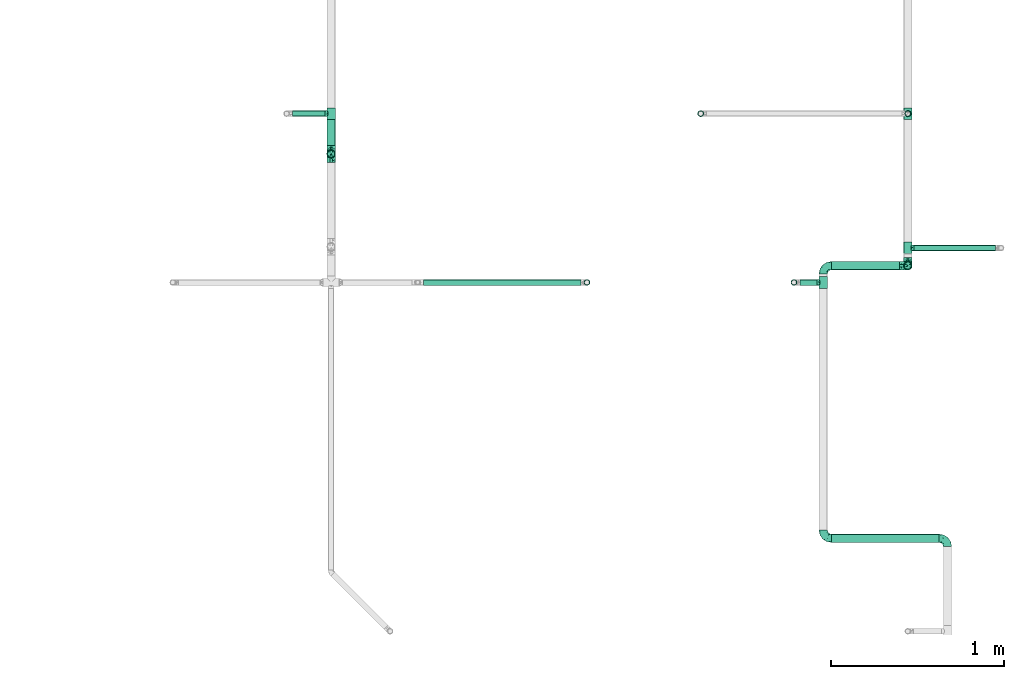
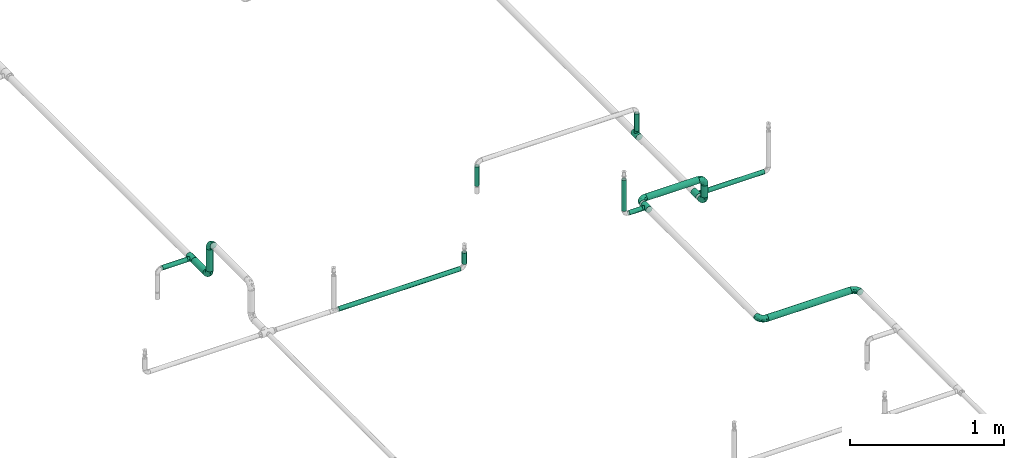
# One storey, part 5 of 157: 13 flow segments, 11 flow fittings.
"""IFC2X3 building model written with IfcOpenShell, lengths in millimetres."""

from ifc_helpers import new_model, entity, si_unit, converted_unit, derived_unit, direction, frame, origin_with_axes, origin_2d_with_axis, place, context, subcontext, project, spatial, hollow_circle, extrude, open_shell, surface_model, source, transform, mapped, type_object, element, save


model = new_model("IFC2X3")

# Units and contexts
model_context = context("Model", 3, precision=0.01, world=frame((0.0, 4.29681676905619e-09, 0.0)), true_north=direction((4.01073788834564e-13, 1.0)))
plan_context = context("Plan", 3, precision=0.01, world=frame((0.0, 4.29681676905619e-09, 0.0)), true_north=direction((4.01073788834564e-13, 1.0)))
body_context = subcontext(model_context, "Body", "Model", "MODEL_VIEW")
ifc_project = project(units=[converted_unit("PLANEANGLEUNIT", "DEGREE", entity("IfcPositiveLengthMeasure", 0.0174532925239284), si_unit("PLANEANGLEUNIT", "RADIAN"), dimensions=[0, 0, 0, 0, 0, 0, 0]), si_unit("AREAUNIT", "SQUARE_METRE"), si_unit("LENGTHUNIT", "METRE", prefix="MILLI"), si_unit("MASSUNIT", "GRAM", prefix="KILO"), si_unit("POWERUNIT", "WATT"), si_unit("PRESSUREUNIT", "PASCAL"), si_unit("FORCEUNIT", "NEWTON", prefix="KILO"), si_unit("ELECTRICCURRENTUNIT", "AMPERE"), si_unit("THERMODYNAMICTEMPERATUREUNIT", "DEGREE_CELSIUS"), si_unit("TIMEUNIT", "SECOND"), si_unit("VOLUMEUNIT", "CUBIC_METRE"), derived_unit("LINEARVELOCITYUNIT", [(si_unit("LENGTHUNIT", "METRE"), 1), (si_unit("TIMEUNIT", "SECOND"), -1)]), derived_unit("VOLUMETRICFLOWRATEUNIT", [(si_unit("VOLUMEUNIT", "CUBIC_METRE"), 1), (si_unit("TIMEUNIT", "SECOND"), -1)]), derived_unit("THERMALTRANSMITTANCEUNIT", [(si_unit("POWERUNIT", "WATT"), 1), (si_unit("THERMODYNAMICTEMPERATUREUNIT", "KELVIN"), -1), (si_unit("AREAUNIT", "SQUARE_METRE"), -1)])], contexts=[model_context, plan_context])

# Site, building, storey
site_placement = place(None, frame((0.0, -4.29681676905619e-09, 0.0), z_axis=(0.0, 0.0, 1.0), x_axis=(1.0, 0.0, 0.0)))
site = spatial("IfcSite", under=ifc_project, at=site_placement, CompositionType="ELEMENT")
building_placement = place(site_placement, frame((0.0, 4.29681676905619e-09, 0.0), z_axis=(0.0, 0.0, 1.0), x_axis=(1.0, 0.0, 0.0)))
building = spatial("IfcBuilding", under=site, at=building_placement, Name="mc-building", CompositionType="ELEMENT")
storey_placement = place(building_placement, frame((0.0, 0.0, 204000.0), z_axis=(0.0, 0.0, 1.0), x_axis=(1.0, 0.0, 0.0)))
storey = spatial("IfcBuildingStorey", under=building, at=storey_placement, Name="Nivå D", CompositionType="ELEMENT", Elevation=204000.0)

# Flow fittings
pipe_fitting_type_1 = type_object("IfcPipeFittingType", Name="magi_pipe_fe_elbow_short_001", PredefinedType="BEND")
shared_shape_1 = source(origin_with_axes(), body_context, "Body", "SurfaceModel", [
    surface_model("IfcShellBasedSurfaceModel", [(-48.4, 6.26342, -23.37541), (-48.4, 0.0, -24.2), (-48.4, 17.11198, -17.11198), (-48.4, 12.1, -20.95781), (-48.4, 23.37541, -6.26342), (-48.4, 20.95781, -12.1), (-48.4, -12.1, -20.95781), (-48.4, -17.11198, -17.11198), (-48.4, -20.95781, -12.1), (-48.4, -6.26342, -23.37541), (-48.4, -23.37541, -6.26342), (-48.4, -24.2, 0.0), (-48.4, -23.37541, 6.26342), (-48.4, 23.37541, 6.26342), (-48.4, 6.26342, 23.37541), (-48.4, 20.95781, 12.1), (-48.4, 17.11198, 17.11198), (-48.4, 12.1, 20.95781), (-48.4, -12.1, 20.95781), (-48.4, -20.95781, 12.1), (-48.4, -17.11198, 17.11198), (-48.4, -6.26342, 23.37541), (-48.4, 0.0, 24.2), (-48.4, 24.2, 0.0), (-17.11198, 48.4, -17.11198), (0.0, 48.4, -24.2), (-6.26342, 48.4, -23.37541), (-12.1, 48.4, -20.95781), (-20.95781, 48.4, -12.1), (-23.37541, 48.4, -6.26342), (12.1, 48.4, -20.95781), (20.95781, 48.4, -12.1), (17.11198, 48.4, -17.11198), (6.26342, 48.4, -23.37541), (23.37541, 48.4, -6.26342), (23.37541, 48.4, 6.26342), (24.2, 48.4, 0.0), (-23.37541, 48.4, 6.26342), (-6.26342, 48.4, 23.37541), (-17.11198, 48.4, 17.11198), (-20.95781, 48.4, 12.1), (-12.1, 48.4, 20.95781), (12.1, 48.4, 20.95781), (17.11198, 48.4, 17.11198), (20.95781, 48.4, 12.1), (0.0, 48.4, 24.2), (6.26342, 48.4, 23.37541), (-24.2, 48.4, 0.0), (-35.50368, -18.80076, 13.58523), (-31.77913, -13.9618, 18.03279), (-34.50859, -21.43683, 0.0), (-21.39243, -15.41147, 12.21413), (-32.16301, -21.12203, 7.54749), (21.12203, 32.16301, 7.54749), (17.07617, 18.95745, 6.20374), (18.67365, 20.61718, 0.0), (-23.65565, 38.62451, 10.51816), (-20.21592, 37.67665, 15.89859), (-35.56981, -9.15108, 21.77256), (-36.96985, -3.20584, 23.78612), (-33.88786, 3.70953, 24.15875), (-8.84062, -10.8048, 0.0), (-18.95745, -17.07617, 6.20374), (-20.61718, -18.67365, 0.0), (-18.69715, -5.87343, 20.10488), (-24.09336, -0.21717, 23.45593), (-2.08262, -4.09091, 10.90396), (-0.40561, 0.49936, 14.45569), (-8.22634, -5.79523, 14.90978), (-37.83027, 20.17367, 15.88169), (-8.41063, 23.79825, 24.15658), (-17.92529, 17.92529, 23.61199), (-14.40991, 10.5752, 24.07534), (-41.86919, 14.6551, 19.71874), (-9.03342, 41.7434, 22.66763), (-3.31671, 36.19978, 24.14056), (-38.63654, 23.65174, 10.51655), (-38.25939, 25.77657, 5.32075), (-30.0475, 30.0475, 9.04616), (-37.30448, 9.49113, 22.86036), (-6.31688, 16.20853, 23.76192), (-12.02449, 4.43954, 22.59792), (-2.47225, 13.07459, 22.23951), (-4.32281, 4.32281, 19.78555), (13.9618, 31.77913, 18.03279), (15.41147, 21.39243, 12.21413), (18.80076, 35.50367, 13.58523), (-25.72741, 16.42033, 22.38358), (-26.59277, 10.36599, 23.76692), (3.20584, 36.96985, 23.78612), (9.15107, 35.56981, 21.77256), (5.87343, 18.69715, 20.10488), (21.43683, 34.50859, 0.0), (-23.74657, 5.93004, 24.18967), (-22.40302, 25.55556, 19.88516), (-33.3245, 16.42738, 20.3789), (-25.47357, 39.04012, 5.19167), (-30.32947, 31.74105, 4.25904), (11.04589, 19.60124, 16.55181), (-27.44219, 36.3, 0.0), (-10.46605, 32.79159, 23.04712), (-13.80953, 25.05111, 23.26361), (-17.54489, 31.27863, 20.33941), (-19.27982, 23.42922, 22.01925), (-14.78447, 40.57947, 19.81913), (-19.60124, -11.04589, 16.55181), (-25.09785, 32.07921, 13.69695), (-25.5093, 27.02629, 17.14196), (-31.08127, 26.00324, 13.49448), (0.21717, 24.09336, 23.45593), (5.51075, 8.40547, 15.32867), (-11.48597, -10.80284, 11.35932), (1.43689, -3.14326, 6.54995), (7.34882, 4.31024, 8.4514), (7.50574, 2.51208, 3.62663), (12.46453, 10.09451, 5.71609), (12.1504, 12.55391, 10.15678), (-36.3, 27.44219, 0.0), (-6.52237, -9.62364, 7.02633), (2.93595, -2.93595, 0.0), (10.8048, 8.84062, 0.0), (-19.60124, -11.04589, -16.55181), (-31.77913, -13.9618, -18.03279), (-18.69715, -5.87343, -20.10488), (-21.39243, -15.41147, -12.21413), (-37.67665, 20.21591, -15.89859), (-40.57947, 14.78447, -19.81913), (-39.04012, 25.47357, -5.19167), (-32.16301, -21.12203, -7.54749), (-30.0475, 30.0475, -9.04616), (-38.62452, 23.65565, -10.51816), (-18.95745, -17.07617, -6.20374), (-23.42922, 19.27982, -22.01926), (-25.05111, 13.80953, -23.26361), (-31.27863, 17.54489, -20.33941), (-14.6551, 41.86919, -19.71874), (-20.17367, 37.83026, -15.88169), (9.15108, 35.56981, -21.77256), (5.87343, 18.69715, -20.10488), (0.21717, 24.09336, -23.45593), (-41.7434, 9.03342, -22.66763), (-35.50368, -18.80076, -13.58523), (-35.56981, -9.15108, -21.77256), (-16.42033, 25.72741, -22.38358), (-9.49113, 37.30447, -22.86036), (-10.36599, 26.59277, -23.76692), (-36.96985, -3.20584, -23.78612), (-23.79826, 8.41063, -24.15658), (-17.92529, 17.92529, -23.61199), (-10.5752, 14.40991, -24.07534), (-36.19978, 3.31671, -24.14056), (-25.77657, 38.25939, -5.32075), (-23.65174, 38.63654, -10.51655), (-32.79159, 10.46605, -23.04712), (-31.74105, 30.32946, -4.25904), (-5.93004, 23.74657, -24.18967), (-25.55556, 22.40302, -19.88516), (-16.42738, 33.3245, -20.3789), (3.20584, 36.96985, -23.78612), (-3.70953, 33.88785, -24.15875), (18.80076, 35.50367, -13.58523), (13.9618, 31.77913, -18.03279), (7.50574, 2.51208, -3.62663), (12.46453, 10.09451, -5.71609), (-16.20853, 6.31688, -23.76192), (-4.43954, 12.02449, -22.59792), (-13.07459, 2.47225, -22.23951), (1.43689, -3.14326, -6.54995), (-6.52237, -9.62364, -7.02632), (-2.08262, -4.09091, -10.90396), (15.41147, 21.39243, -12.21413), (21.12203, 32.16301, -7.54749), (17.07617, 18.95745, -6.20374), (-32.07921, 25.09785, -13.69695), (11.04589, 19.60124, -16.55181), (12.1504, 12.55391, -10.15678), (5.51075, 8.40547, -15.32867), (-27.02629, 25.5093, -17.14196), (-26.00324, 31.08127, -13.49448), (-24.09336, -0.21717, -23.45593), (-4.32281, 4.32281, -19.78555), (-8.22634, -5.79524, -14.90978), (-11.48597, -10.80284, -11.35931), (-0.40561, 0.49936, -14.45569), (7.34882, 4.31024, -8.4514)], [open_shell([[[0, 1, 2]], [[3, 0, 2]], [[4, 5, 2]], [[6, 2, 1]], [[4, 2, 6]], [[7, 8, 6]], [[1, 9, 6]], [[8, 10, 6]], [[6, 10, 4]], [[11, 12, 10]], [[13, 4, 10]], [[14, 13, 10]], [[15, 13, 16]], [[13, 14, 17]], [[16, 13, 17]], [[10, 18, 14]], [[19, 20, 12]], [[20, 10, 12]], [[21, 22, 18]], [[20, 18, 10]], [[18, 22, 14]], [[23, 4, 13]], [[24, 25, 26]], [[24, 26, 27]], [[24, 28, 29]], [[25, 24, 30]], [[30, 24, 29]], [[30, 31, 32]], [[30, 33, 25]], [[30, 34, 31]], [[29, 34, 30]], [[34, 35, 36]], [[34, 29, 37]], [[34, 37, 38]], [[39, 37, 40]], [[41, 38, 37]], [[41, 37, 39]], [[38, 42, 34]], [[35, 43, 44]], [[35, 34, 43]], [[42, 45, 46]], [[34, 42, 43]], [[38, 45, 42]], [[37, 29, 47]], [[20, 48, 49]], [[12, 11, 50]], [[51, 48, 52]], [[53, 54, 55]], [[48, 20, 19]], [[12, 52, 19]], [[40, 56, 57]], [[49, 18, 20]], [[49, 58, 18]], [[22, 59, 60]], [[61, 62, 63]], [[58, 64, 65]], [[66, 67, 68]], [[15, 16, 69]], [[70, 71, 72]], [[17, 73, 16]], [[21, 59, 22]], [[38, 74, 75]], [[22, 60, 14]], [[15, 69, 76]], [[16, 73, 69]], [[23, 13, 77]], [[13, 15, 76]], [[77, 76, 78]], [[14, 79, 17]], [[80, 81, 82]], [[68, 83, 64]], [[84, 43, 42]], [[85, 86, 84]], [[87, 79, 88]], [[18, 58, 21]], [[45, 89, 46]], [[53, 35, 44]], [[45, 38, 75]], [[84, 90, 91]], [[44, 86, 53]], [[92, 35, 53]], [[86, 44, 43]], [[90, 42, 46]], [[53, 55, 92]], [[88, 93, 72]], [[54, 53, 85]], [[87, 94, 95]], [[78, 96, 97]], [[98, 84, 91]], [[99, 96, 47]], [[79, 14, 60]], [[96, 78, 56]], [[62, 52, 63]], [[57, 39, 40]], [[100, 70, 75]], [[101, 102, 103]], [[12, 50, 52]], [[104, 41, 39]], [[74, 38, 41]], [[57, 102, 104]], [[105, 64, 49]], [[90, 84, 42]], [[40, 37, 56]], [[56, 106, 57]], [[102, 57, 107]], [[95, 107, 69]], [[76, 108, 78]], [[100, 101, 70]], [[89, 75, 109]], [[64, 58, 49]], [[63, 52, 50]], [[59, 58, 65]], [[105, 49, 51]], [[64, 83, 81]], [[89, 90, 46]], [[36, 35, 92]], [[109, 82, 91]], [[109, 91, 90]], [[91, 83, 110]], [[111, 68, 105]], [[66, 68, 111]], [[62, 51, 52]], [[66, 112, 113]], [[114, 115, 113]], [[98, 85, 84]], [[52, 48, 19]], [[49, 48, 51]], [[84, 86, 43]], [[53, 86, 85]], [[88, 79, 60]], [[73, 79, 95]], [[96, 56, 37]], [[78, 108, 106]], [[87, 103, 94]], [[100, 74, 104]], [[108, 69, 107]], [[78, 97, 77]], [[88, 72, 71]], [[109, 75, 70]], [[81, 72, 65]], [[70, 72, 80]], [[75, 89, 45]], [[90, 89, 109]], [[58, 59, 21]], [[60, 59, 65]], [[67, 83, 68]], [[110, 113, 116]], [[88, 60, 93]], [[87, 88, 71]], [[103, 87, 71]], [[79, 87, 95]], [[101, 103, 71]], [[94, 103, 102]], [[47, 96, 37]], [[96, 99, 97]], [[99, 117, 97]], [[97, 117, 77]], [[23, 77, 117]], [[13, 76, 77]], [[60, 65, 93]], [[65, 72, 93]], [[70, 101, 71]], [[102, 101, 100]], [[69, 108, 76]], [[106, 108, 107]], [[57, 106, 107]], [[78, 106, 56]], [[57, 104, 39]], [[100, 104, 102]], [[102, 107, 94]], [[95, 94, 107]], [[64, 81, 65]], [[82, 81, 83]], [[91, 82, 83]], [[80, 82, 109]], [[70, 80, 109]], [[81, 80, 72]], [[79, 73, 17]], [[69, 73, 95]], [[104, 74, 41]], [[75, 74, 100]], [[62, 61, 118]], [[111, 62, 118]], [[113, 115, 116]], [[119, 118, 61]], [[111, 105, 51]], [[113, 112, 114]], [[120, 55, 54]], [[68, 64, 105]], [[91, 110, 98]], [[116, 98, 110]], [[62, 111, 51]], [[66, 111, 118]], [[112, 66, 118]], [[67, 113, 110]], [[118, 119, 112]], [[114, 112, 119]], [[119, 120, 114]], [[115, 120, 54]], [[120, 115, 114]], [[116, 54, 85]], [[54, 116, 115]], [[116, 85, 98]], [[113, 67, 66]], [[83, 67, 110]], [[121, 122, 123]], [[122, 121, 124]], [[5, 125, 2]], [[2, 126, 3]], [[117, 127, 23]], [[50, 10, 128]], [[127, 129, 130]], [[128, 131, 63]], [[132, 133, 134]], [[24, 135, 136]], [[137, 138, 139]], [[3, 140, 0]], [[128, 8, 141]], [[142, 6, 9]], [[128, 63, 50]], [[5, 4, 130]], [[8, 7, 141]], [[143, 144, 145]], [[146, 9, 1]], [[147, 148, 149]], [[8, 128, 10]], [[124, 141, 122]], [[150, 1, 0]], [[151, 152, 129]], [[125, 134, 126]], [[153, 147, 150]], [[127, 154, 129]], [[145, 155, 149]], [[47, 29, 151]], [[143, 156, 157]], [[152, 29, 28]], [[25, 158, 159]], [[122, 7, 6]], [[24, 27, 135]], [[144, 27, 26]], [[32, 160, 161]], [[25, 33, 158]], [[120, 162, 163]], [[130, 125, 5]], [[24, 136, 28]], [[0, 140, 150]], [[30, 161, 137]], [[142, 122, 6]], [[25, 159, 26]], [[164, 165, 166]], [[167, 168, 169]], [[31, 160, 32]], [[161, 30, 32]], [[170, 160, 171]], [[131, 128, 124]], [[36, 92, 34]], [[34, 92, 171]], [[172, 171, 55]], [[34, 171, 31]], [[144, 26, 159]], [[130, 173, 125]], [[174, 175, 176]], [[136, 152, 28]], [[30, 137, 33]], [[122, 142, 123]], [[134, 125, 177]], [[157, 177, 136]], [[152, 178, 129]], [[153, 133, 147]], [[146, 150, 179]], [[146, 142, 9]], [[11, 10, 50]], [[179, 166, 123]], [[179, 123, 142]], [[123, 180, 181]], [[138, 137, 161]], [[55, 171, 92]], [[158, 137, 139]], [[174, 161, 170]], [[138, 180, 165]], [[180, 138, 176]], [[124, 121, 182]], [[176, 183, 180]], [[61, 131, 168]], [[169, 168, 182]], [[172, 170, 171]], [[122, 141, 7]], [[128, 141, 124]], [[171, 160, 31]], [[161, 160, 170]], [[145, 144, 159]], [[135, 144, 157]], [[127, 130, 4]], [[129, 178, 173]], [[143, 132, 156]], [[153, 140, 126]], [[178, 136, 177]], [[129, 154, 151]], [[145, 149, 148]], [[179, 150, 147]], [[165, 149, 139]], [[147, 149, 164]], [[150, 146, 1]], [[142, 146, 179]], [[137, 158, 33]], [[159, 158, 139]], [[174, 138, 161]], [[184, 169, 183]], [[145, 159, 155]], [[143, 145, 148]], [[132, 143, 148]], [[144, 143, 157]], [[133, 132, 148]], [[156, 132, 134]], [[23, 127, 4]], [[127, 117, 154]], [[117, 99, 154]], [[154, 99, 151]], [[47, 151, 99]], [[29, 152, 151]], [[159, 139, 155]], [[139, 149, 155]], [[147, 133, 148]], [[134, 133, 153]], [[136, 178, 152]], [[173, 178, 177]], [[125, 173, 177]], [[129, 173, 130]], [[125, 126, 2]], [[153, 126, 134]], [[134, 177, 156]], [[157, 156, 177]], [[138, 165, 139]], [[166, 165, 180]], [[123, 166, 180]], [[164, 166, 179]], [[147, 164, 179]], [[165, 164, 149]], [[144, 135, 27]], [[136, 135, 157]], [[126, 140, 3]], [[150, 140, 153]], [[182, 131, 124]], [[168, 119, 61]], [[119, 167, 162]], [[63, 131, 61]], [[172, 163, 175]], [[172, 55, 120]], [[123, 181, 121]], [[182, 121, 181]], [[175, 174, 170]], [[176, 138, 174]], [[169, 182, 181]], [[131, 182, 168]], [[183, 169, 181]], [[167, 169, 184]], [[162, 167, 184]], [[119, 168, 167]], [[163, 162, 184]], [[120, 119, 162]], [[175, 163, 184]], [[120, 163, 172]], [[176, 175, 184]], [[172, 175, 170]], [[180, 183, 181]], [[184, 183, 176]]])]),
])
for number, where, z_axis, x_axis, name in (
    (1, (531330.55939, 405738.70215, 2880.0), (0.0, 0.0, 1.0), (0.0, 1.0, 0.0), "magi_pipe_fe_elbow_short_001"),
    (2, (530609.5, 405738.70215, 2880.0), (0.0, 0.0, 1.0), (0.0, -1.0, 0.0), "magi_pipe_fe_elbow_short_001"),
    (3, (527758.2357, 407966.2, 2880.0), (-1.0, 0.0, 0.0), (0.0, -1.0, 0.0), "magi_pipe_fe_elbow_short_001"),
    (4, (527758.2357, 407966.2, 3150.0), (1.0, 0.0, 0.0), (0.0, 0.0, 1.0), "magi_pipe_fe_elbow_short_001"),
    (5, (531100.55939, 407318.70215, 2690.0), (-1.0, 0.0, 0.0), (0.0, -1.0, 0.0), "magi_pipe_fe_elbow_short_001"),
    (6, (531100.55939, 407318.70215, 2880.0), (0.0, -1.0, 0.0), (0.0, 0.0, 1.0), "magi_pipe_fe_elbow_short_001"),
    (7, (530609.5, 407318.70215, 2880.0), (0.0, 0.0, 1.0), (-1.0, 0.0, 0.0), "magi_pipe_fe_elbow_short_001"),
):
    element("IfcFlowFitting", number, at=place(storey_placement, frame(where, z_axis=z_axis, x_axis=x_axis)), inside=storey, type_object=pipe_fitting_type_1, Name=name, context=body_context, shape_type="MappedRepresentation", body=[
        mapped(shared_shape_1, transform((0.0, 0.0, 0.0), scale=1.0)),
    ])
pipe_fitting_type_2 = type_object("IfcPipeFittingType", Name="magi_pipe_fe_tee_centric_90_NOR", PredefinedType="JUNCTION")
shared_shape_2 = source(origin_with_axes(), body_context, "Body", "SurfaceModel", [
    surface_model("IfcShellBasedSurfaceModel", [(-33.8, 0.0, -24.2), (-33.8, -6.26342, -23.37541), (-33.8, 6.26342, -23.37541), (-33.8, 12.1, -20.95781), (-33.8, 17.11198, -17.11198), (-33.8, 20.95781, -12.1), (-33.8, -23.37541, -6.26342), (-33.8, 23.37541, -6.26342), (-33.8, -17.11198, -17.11198), (-33.8, -20.95781, -12.1), (-33.8, -12.1, -20.95781), (-33.8, -24.2, 0.0), (-33.8, -23.37541, 6.26342), (-33.8, 20.95781, 12.1), (-33.8, 23.37541, 6.26342), (-33.8, 24.2, 0.0), (-33.8, 12.1, 20.95781), (-33.8, 17.11198, 17.11198), (-33.8, -17.11198, 17.11198), (-33.8, 6.26342, 23.37541), (-33.8, -20.95781, 12.1), (-33.8, -12.1, 20.95781), (-33.8, -6.26342, 23.37541), (-33.8, 0.0, 24.2), (33.8, 6.26342, -23.37541), (33.8, -6.26342, -23.37541), (33.8, 0.0, -24.2), (33.8, 17.11198, -17.11198), (33.8, 12.1, -20.95781), (33.8, -23.37541, -6.26342), (33.8, 20.95781, -12.1), (33.8, 23.37541, -6.26342), (33.8, -17.11198, -17.11198), (33.8, -12.1, -20.95781), (33.8, -20.95781, -12.1), (33.8, -24.2, 0.0), (33.8, 24.2, 0.0), (33.8, 23.37541, 6.26342), (33.8, 20.95781, 12.1), (33.8, -23.37541, 6.26342), (33.8, -17.11198, 17.11198), (33.8, 12.1, 20.95781), (33.8, 17.11198, 17.11198), (33.8, 6.26342, 23.37541), (33.8, -20.95781, 12.1), (33.8, -12.1, 20.95781), (33.8, 0.0, 24.2), (33.8, -6.26342, 23.37541), (15.81824, -23.45734, 5.94922), (16.9, -24.2, 0.0), (12.87025, -21.57947, 10.95293), (33.8, -19.0349, 14.60599), (8.52813, -19.30697, 14.59044), (3.03527, -17.5853, 16.6252), (-3.04044, -17.58619, 16.62425), (-8.52961, -19.30762, 14.58958), (-33.8, -19.0349, 14.60599), (-16.9, -24.2, 0.0), (-15.81885, -23.45775, 5.9476), (-12.87368, -21.58151, 10.9489), (3.03527, -17.5853, -16.6252), (33.8, -19.0349, -14.60599), (8.52813, -19.30697, -14.59044), (-8.52961, -19.30762, -14.58958), (-33.8, -19.0349, -14.60599), (12.87025, -21.57947, -10.95293), (-3.04044, -17.58619, -16.62425), (15.81824, -23.45734, -5.94922), (-12.87368, -21.58151, -10.9489), (-15.81885, -23.45775, -5.9476), (4.37404, -36.3, -16.32415), (-16.9, -36.3, 0.0), (0.0, -36.3, -16.9), (14.63583, -36.3, -8.45), (8.45, -36.3, -14.63583), (16.32415, -36.3, -4.37404), (11.9501, -36.3, -11.9501), (-11.9501, -36.3, -11.9501), (-8.45, -36.3, -14.63583), (-4.37404, -36.3, -16.32415), (-14.63583, -36.3, -8.45), (-16.32415, -36.3, -4.37404), (16.9, -36.3, 0.0), (8.45, -36.3, 14.63583), (16.32415, -36.3, 4.37404), (14.63583, -36.3, 8.45), (-8.45, -36.3, 14.63583), (11.9501, -36.3, 11.9501), (4.37404, -36.3, 16.32415), (-16.32415, -36.3, 4.37404), (-11.9501, -36.3, 11.9501), (-14.63583, -36.3, 8.45), (0.0, -36.3, 16.9), (-4.37404, -36.3, 16.32415), (-16.35943, -23.82888, 2.9738), (16.35912, -23.82867, 2.97461), (-0.00259, -17.58575, 16.62472), (16.35912, -23.82867, -2.97461), (-0.00259, -17.58575, -16.62472), (-16.35943, -23.82888, -2.9738)], [open_shell([[[0, 1, 2]], [[3, 2, 4]], [[5, 2, 6]], [[4, 2, 5]], [[7, 5, 6]], [[8, 9, 10]], [[1, 10, 9]], [[1, 9, 2]], [[9, 6, 2]], [[6, 11, 7]], [[11, 12, 7]], [[13, 14, 15]], [[13, 15, 12]], [[16, 17, 18]], [[12, 17, 13]], [[19, 16, 18]], [[20, 18, 12]], [[18, 17, 12]], [[21, 22, 18]], [[23, 18, 22]], [[18, 23, 19]], [[7, 12, 15]], [[24, 25, 26]], [[27, 24, 28]], [[29, 24, 30]], [[30, 24, 27]], [[29, 30, 31]], [[25, 32, 33]], [[32, 25, 34]], [[24, 34, 25]], [[24, 29, 34]], [[31, 35, 29]], [[31, 36, 35]], [[36, 37, 38]], [[39, 36, 38]], [[40, 38, 41]], [[41, 38, 42]], [[40, 41, 43]], [[39, 40, 44]], [[39, 38, 40]], [[45, 46, 47]], [[46, 45, 40]], [[43, 46, 40]], [[36, 39, 35]], [[35, 39, 48]], [[48, 49, 35]], [[39, 50, 48]], [[51, 40, 52]], [[52, 50, 44]], [[53, 52, 40]], [[54, 53, 21]], [[44, 50, 39]], [[55, 18, 56]], [[57, 58, 11]], [[12, 11, 58]], [[58, 59, 12]], [[55, 54, 18]], [[55, 20, 59]], [[20, 55, 56]], [[59, 20, 12]], [[18, 54, 21]], [[52, 44, 51]], [[53, 40, 45]], [[23, 47, 46]], [[22, 45, 47]], [[19, 46, 43]], [[38, 37, 14]], [[17, 41, 42]], [[13, 42, 38]], [[43, 41, 16]], [[15, 37, 36]], [[21, 45, 22]], [[22, 47, 23]], [[19, 23, 46]], [[43, 16, 19]], [[16, 41, 17]], [[13, 17, 42]], [[14, 13, 38]], [[37, 15, 14]], [[45, 21, 53]], [[5, 31, 30]], [[7, 36, 31]], [[4, 30, 27]], [[26, 25, 1]], [[2, 28, 24]], [[0, 24, 26]], [[27, 28, 3]], [[10, 25, 33]], [[15, 36, 7]], [[7, 31, 5]], [[4, 5, 30]], [[27, 3, 4]], [[3, 28, 2]], [[0, 2, 24]], [[1, 0, 26]], [[25, 10, 1]], [[33, 60, 10]], [[61, 34, 62]], [[63, 9, 64]], [[62, 60, 32]], [[34, 65, 62]], [[66, 10, 60]], [[29, 35, 67]], [[67, 65, 29]], [[49, 67, 35]], [[29, 65, 34]], [[66, 63, 8]], [[62, 32, 61]], [[64, 8, 63]], [[63, 68, 9]], [[8, 10, 66]], [[68, 69, 6]], [[69, 11, 6]], [[11, 69, 57]], [[68, 6, 9]], [[60, 33, 32]], [[70, 71, 72]], [[73, 70, 74]], [[73, 75, 70]], [[73, 74, 76]], [[71, 70, 75]], [[72, 77, 78]], [[78, 79, 72]], [[80, 71, 81]], [[77, 72, 80]], [[71, 80, 72]], [[75, 82, 71]], [[83, 82, 84]], [[83, 84, 85]], [[86, 71, 83]], [[83, 85, 87]], [[86, 83, 88]], [[89, 90, 91]], [[90, 89, 86]], [[86, 92, 93]], [[89, 71, 86]], [[88, 92, 86]], [[83, 71, 82]], [[89, 94, 71]], [[59, 91, 90]], [[89, 91, 58]], [[90, 86, 55]], [[89, 58, 94]], [[94, 57, 71]], [[58, 91, 59]], [[95, 48, 84]], [[55, 93, 54]], [[55, 59, 90]], [[92, 53, 96]], [[55, 86, 93]], [[53, 92, 88]], [[83, 52, 88]], [[87, 85, 50]], [[87, 52, 83]], [[48, 85, 84]], [[87, 50, 52]], [[52, 53, 88]], [[82, 95, 84]], [[48, 50, 85]], [[95, 82, 49]], [[92, 54, 93]], [[96, 54, 92]], [[75, 97, 82]], [[65, 73, 76]], [[75, 73, 67]], [[76, 74, 62]], [[97, 49, 82]], [[67, 73, 65]], [[62, 70, 60]], [[62, 65, 76]], [[72, 66, 98]], [[62, 74, 70]], [[99, 71, 57]], [[99, 69, 81]], [[75, 67, 97]], [[79, 66, 72]], [[69, 80, 81]], [[77, 80, 68]], [[72, 60, 70]], [[79, 63, 66]], [[63, 79, 78]], [[78, 77, 63]], [[63, 77, 68]], [[68, 80, 69]], [[71, 99, 81]], [[98, 60, 72]]])]),
])
for number, where, z_axis, x_axis, name in (
    (8, (527758.2357, 408200.0, 2880.0), (0.0, 0.0, -1.0), (0.0, 1.0, 0.0), "magi_pipe_fe_tee_centric_90_NOR"),
    (9, (530609.5, 407221.65, 2880.0), (0.0, 0.0, 1.0), (0.0, -1.0, 0.0), "magi_pipe_fe_tee_centric_90_NOR"),
    (10, (531100.55939, 407421.65, 2690.0), (0.0, 0.0, -1.0), (0.0, -1.0, 0.0), "magi_pipe_fe_tee_centric_90_NOR"),
    (11, (531100.55939, 408200.0, 2690.0), (1.0, 0.0, 0.0), (0.0, -1.0, 0.0), "magi_pipe_fe_tee_centric_90_NOR"),
):
    element("IfcFlowFitting", number, at=place(storey_placement, frame(where, z_axis=z_axis, x_axis=x_axis)), inside=storey, type_object=pipe_fitting_type_2, Name=name, context=body_context, shape_type="MappedRepresentation", body=[
        mapped(shared_shape_2, transform((0.0, 0.0, 0.0), scale=1.0)),
    ])

# Flow segments
pipe_segment_type = type_object("IfcPipeSegmentType", Name="Stålrør normaltykke", PredefinedType="RIGIDSEGMENT")
shared_shape_3 = source(origin_with_axes(), body_context, "Body", "SweptSolid", [
    extrude(hollow_circle(Radius=16.9, WallThickness=2.0, at=origin_2d_with_axis()), frame((0.0, 0.0, 0.0), z_axis=(1.0, 0.0, 0.0), x_axis=(0.0, 1.0, 0.0)), (0.0, 0.0, 1.0), 98.9),
])
flow_segment_1_placement = place(storey_placement, frame((530474.15, 407221.65, 2880.0), z_axis=(0.0, 0.0, 1.0), x_axis=(1.0, 0.0, 0.0)))
element("IfcFlowSegment", 12, at=flow_segment_1_placement, inside=storey, type_object=pipe_segment_type, Name="Stålrør normaltykke", context=body_context, shape_type="MappedRepresentation", body=[
    mapped(shared_shape_3, transform((0.0, 0.0, 0.0), scale=1.0)),
])
shared_shape_4 = source(origin_with_axes(), body_context, "Body", "SweptSolid", [
    extrude(hollow_circle(Radius=16.9, WallThickness=2.0, at=origin_2d_with_axis()), frame((0.0, 0.0, 0.0), z_axis=(1.0, 0.0, 0.0), x_axis=(0.0, 1.0, 0.0)), (0.0, 0.0, 1.0), 89.3),
])
flow_segment_2_placement = place(storey_placement, frame((529240.89876, 407221.65, 3003.14799999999), z_axis=(0.0, 1.0, 0.0), x_axis=(0.0, 0.0, -1.0)))
element("IfcFlowSegment", 13, at=flow_segment_2_placement, inside=storey, type_object=pipe_segment_type, Name="Stålrør normaltykke", context=body_context, shape_type="MappedRepresentation", body=[
    mapped(shared_shape_4, transform((0.0, 0.0, 0.0), scale=1.0)),
])
shared_shape_5 = source(origin_with_axes(), body_context, "Body", "SweptSolid", [
    extrude(hollow_circle(Radius=16.9, WallThickness=2.0, at=origin_2d_with_axis()), frame((0.0, 0.0, 0.0), z_axis=(1.0, 0.0, 0.0), x_axis=(0.0, 1.0, 0.0)), (0.0, 0.0, 1.0), 246.3),
])
flow_segment_3_placement = place(storey_placement, frame((530440.35, 407221.65, 3160.14799999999), z_axis=(0.0, 1.0, 0.0), x_axis=(0.0, 0.0, -1.0)))
element("IfcFlowSegment", 14, at=flow_segment_3_placement, inside=storey, type_object=pipe_segment_type, Name="Stålrør normaltykke", context=body_context, shape_type="MappedRepresentation", body=[
    mapped(shared_shape_5, transform((0.0, 0.0, 0.0), scale=1.0)),
])
shared_shape_6 = source(origin_with_axes(), body_context, "Body", "SweptSolid", [
    extrude(hollow_circle(Radius=16.9, WallThickness=2.0, at=origin_2d_with_axis()), frame((0.0, 0.0, 0.0), z_axis=(1.0, 0.0, 0.0), x_axis=(0.0, 1.0, 0.0)), (0.0, 0.0, 1.0), 136.8),
])
flow_segment_4_placement = place(storey_placement, frame((531100.55939, 408200.0, 2726.29999999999), z_axis=(1.0, 0.0, 0.0), x_axis=(0.0, 0.0, 1.0)))
element("IfcFlowSegment", 15, at=flow_segment_4_placement, inside=storey, type_object=pipe_segment_type, Name="Stålrør normaltykke", context=body_context, shape_type="MappedRepresentation", body=[
    mapped(shared_shape_6, transform((0.0, 0.0, 0.0), scale=1.0)),
])
shared_shape_7 = source(origin_with_axes(), body_context, "Body", "SweptSolid", [
    extrude(hollow_circle(Radius=16.9, WallThickness=2.0, at=origin_2d_with_axis()), frame((0.0, 0.0, 0.0), z_axis=(1.0, 0.0, 0.0), x_axis=(0.0, 1.0, 0.0)), (0.0, 0.0, 1.0), 153.8),
])
flow_segment_5_placement = place(storey_placement, frame((529900.0, 408200.0, 2709.35200000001), z_axis=(0.0, 1.0, 0.0), x_axis=(0.0, 0.0, 1.0)))
element("IfcFlowSegment", 16, at=flow_segment_5_placement, inside=storey, type_object=pipe_segment_type, Name="Stålrør normaltykke", context=body_context, shape_type="MappedRepresentation", body=[
    mapped(shared_shape_7, transform((0.0, 0.0, 0.0), scale=1.0)),
])
shared_shape_8 = source(origin_with_axes(), body_context, "Body", "SweptSolid", [
    extrude(hollow_circle(Radius=24.1, WallThickness=2.0, at=origin_2d_with_axis()), frame((0.0, 0.0, 0.0), z_axis=(1.0, 0.0, 0.0), x_axis=(0.0, 1.0, 0.0)), (0.0, 0.0, 1.0), 624.3),
])
flow_segment_6_placement = place(storey_placement, frame((531282.15939, 405738.70215, 2880.0), z_axis=(0.0, 0.0, 1.0), x_axis=(-1.0, 0.0, 0.0)))
element("IfcFlowSegment", 17, at=flow_segment_6_placement, inside=storey, type_object=pipe_segment_type, Name="Stålrør normaltykke", context=body_context, shape_type="MappedRepresentation", body=[
    mapped(shared_shape_8, transform((0.0, 0.0, 0.0), scale=1.0)),
])
shared_shape_9 = source(origin_with_axes(), body_context, "Body", "SweptSolid", [
    extrude(hollow_circle(Radius=16.9, WallThickness=2.0, at=origin_2d_with_axis()), frame((0.0, 0.0, 0.0), z_axis=(1.0, 0.0, 0.0), x_axis=(0.0, 1.0, 0.0)), (0.0, 0.0, 1.0), 188.1),
])
flow_segment_7_placement = place(storey_placement, frame((527533.8, 408200.0, 2880.0), z_axis=(0.0, 0.0, 1.0), x_axis=(1.0, 0.0, 0.0)))
element("IfcFlowSegment", 18, at=flow_segment_7_placement, inside=storey, type_object=pipe_segment_type, Name="Stålrør normaltykke", context=body_context, shape_type="MappedRepresentation", body=[
    mapped(shared_shape_9, transform((0.0, 0.0, 0.0), scale=1.0)),
])
shared_shape_10 = source(origin_with_axes(), body_context, "Body", "SweptSolid", [
    extrude(hollow_circle(Radius=24.1, WallThickness=2.0, at=origin_2d_with_axis()), frame((0.0, 0.0, 0.0), z_axis=(1.0, 0.0, 0.0), x_axis=(0.0, 1.0, 0.0)), (0.0, 0.0, 1.0), 93.2),
])
flow_segment_8_placement = place(storey_placement, frame((531100.55939, 407318.70215, 2738.39999999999), z_axis=(1.0, 0.0, 0.0), x_axis=(0.0, 0.0, 1.0)))
element("IfcFlowSegment", 19, at=flow_segment_8_placement, inside=storey, type_object=pipe_segment_type, Name="Stålrør normaltykke", context=body_context, shape_type="MappedRepresentation", body=[
    mapped(shared_shape_10, transform((0.0, 0.0, 0.0), scale=1.0)),
])
shared_shape_11 = source(origin_with_axes(), body_context, "Body", "SweptSolid", [
    extrude(hollow_circle(Radius=24.1, WallThickness=2.0, at=origin_2d_with_axis()), frame((0.0, 0.0, 0.0), z_axis=(1.0, 0.0, 0.0), x_axis=(0.0, 1.0, 0.0)), (0.0, 0.0, 1.0), 151.6),
])
flow_segment_9_placement = place(storey_placement, frame((527758.2357, 408166.2, 2880.0), z_axis=(0.0, 0.0, 1.0), x_axis=(0.0, -1.0, 0.0)))
element("IfcFlowSegment", 20, at=flow_segment_9_placement, inside=storey, type_object=pipe_segment_type, Name="Stålrør normaltykke", context=body_context, shape_type="MappedRepresentation", body=[
    mapped(shared_shape_11, transform((0.0, 0.0, 0.0), scale=1.0)),
])
shared_shape_12 = source(origin_with_axes(), body_context, "Body", "SweptSolid", [
    extrude(hollow_circle(Radius=24.1, WallThickness=2.0, at=origin_2d_with_axis()), frame((0.0, 0.0, 0.0), z_axis=(1.0, 0.0, 0.0), x_axis=(0.0, 1.0, 0.0)), (0.0, 0.0, 1.0), 173.2),
])
flow_segment_10_placement = place(storey_placement, frame((527758.2357, 407966.2, 2928.39999999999), z_axis=(-1.0, 0.0, 0.0), x_axis=(0.0, 0.0, 1.0)))
element("IfcFlowSegment", 21, at=flow_segment_10_placement, inside=storey, type_object=pipe_segment_type, Name="Stålrør normaltykke", context=body_context, shape_type="MappedRepresentation", body=[
    mapped(shared_shape_12, transform((0.0, 0.0, 0.0), scale=1.0)),
])
shared_shape_13 = source(origin_with_axes(), body_context, "Body", "SweptSolid", [
    extrude(hollow_circle(Radius=16.9, WallThickness=2.0, at=origin_2d_with_axis()), frame((0.0, 0.0, 0.0), z_axis=(1.0, 0.0, 0.0), x_axis=(0.0, 1.0, 0.0)), (0.0, 0.0, 1.0), 913.7),
])
flow_segment_11_placement = place(storey_placement, frame((529207.09876, 407221.65, 2880.0), z_axis=(0.0, 0.0, 1.0), x_axis=(-1.0, 0.0, 0.0)))
element("IfcFlowSegment", 22, at=flow_segment_11_placement, inside=storey, type_object=pipe_segment_type, Name="Stålrør normaltykke", context=body_context, shape_type="MappedRepresentation", body=[
    mapped(shared_shape_13, transform((0.0, 0.0, 0.0), scale=1.0)),
])
shared_shape_14 = source(origin_with_axes(), body_context, "Body", "SweptSolid", [
    extrude(hollow_circle(Radius=24.1, WallThickness=2.0, at=origin_2d_with_axis()), frame((0.0, 0.0, 0.0), z_axis=(1.0, 0.0, 0.0), x_axis=(0.0, 1.0, 0.0)), (0.0, 0.0, 1.0), 394.3),
])
flow_segment_12_placement = place(storey_placement, frame((531052.15939, 407318.70215, 2880.0), z_axis=(0.0, 0.0, 1.0), x_axis=(-1.0, 0.0, 0.0)))
element("IfcFlowSegment", 23, at=flow_segment_12_placement, inside=storey, type_object=pipe_segment_type, Name="Stålrør normaltykke", context=body_context, shape_type="MappedRepresentation", body=[
    mapped(shared_shape_14, transform((0.0, 0.0, 0.0), scale=1.0)),
])
shared_shape_15 = source(origin_with_axes(), body_context, "Body", "SweptSolid", [
    extrude(hollow_circle(Radius=16.9, WallThickness=2.0, at=origin_2d_with_axis()), frame((0.0, 0.0, 0.0), z_axis=(1.0, 0.0, 0.0), x_axis=(0.0, 1.0, 0.0)), (0.0, 0.0, 1.0), 470.2),
])
flow_segment_13_placement = place(storey_placement, frame((531607.09876, 407421.65, 2690.0), z_axis=(0.0, 0.0, 1.0), x_axis=(-1.0, 0.0, 0.0)))
element("IfcFlowSegment", 24, at=flow_segment_13_placement, inside=storey, type_object=pipe_segment_type, Name="Stålrør normaltykke", context=body_context, shape_type="MappedRepresentation", body=[
    mapped(shared_shape_15, transform((0.0, 0.0, 0.0), scale=1.0)),
])

save(model, "model.ifc")
